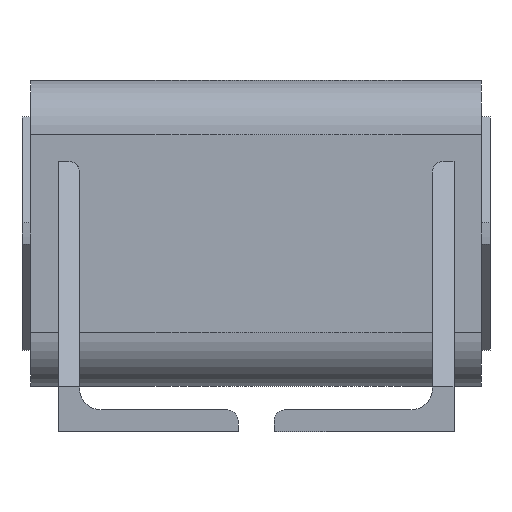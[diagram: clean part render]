
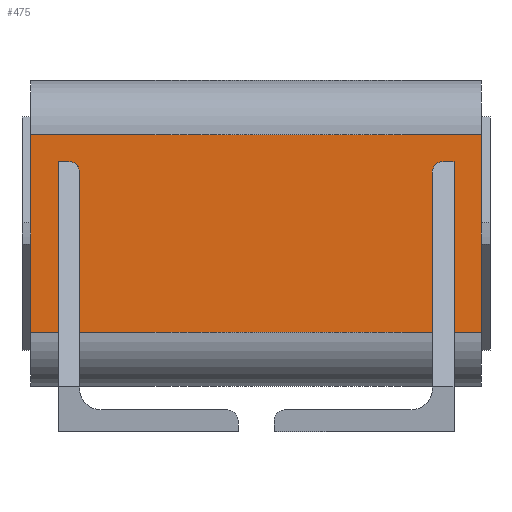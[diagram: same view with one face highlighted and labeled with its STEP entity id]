
A CAD part, left-side view. The second image highlights one B-rep face of the part: STEP entity #475.
In plain terms, the highlighted planar face has unit normal (-1, 0, 0).
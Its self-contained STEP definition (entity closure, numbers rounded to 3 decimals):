
#417=CARTESIAN_POINT('',(-85.,250.0,55.));
#418=VERTEX_POINT('',#417);
#426=CARTESIAN_POINT('',(-85.,0.0,55.));
#427=VERTEX_POINT('',#426);
#428=CARTESIAN_POINT('',(-85.,0.0,55.));
#429=DIRECTION('',(0.0,1.0,0.0));
#430=VECTOR('',#429,250.0);
#431=LINE('',#428,#430);
#432=EDGE_CURVE('',#427,#418,#431,.T.);
#445=CARTESIAN_POINT('',(-85.,0.0,55.));
#446=DIRECTION('',(-1.0,0.0,0.0));
#447=DIRECTION('',(0.0,0.0,1.0));
#448=AXIS2_PLACEMENT_3D('',#445,#446,#447);
#449=PLANE('',#448);
#450=CARTESIAN_POINT('',(-85.,250.0,-55.));
#451=VERTEX_POINT('',#450);
#452=CARTESIAN_POINT('',(-85.,250.0,55.));
#453=DIRECTION('',(0.0,0.0,-1.0));
#454=VECTOR('',#453,110.);
#455=LINE('',#452,#454);
#456=EDGE_CURVE('',#418,#451,#455,.T.);
#457=ORIENTED_EDGE('',*,*,#456,.T.);
#458=CARTESIAN_POINT('',(-85.,0.0,-55.));
#459=VERTEX_POINT('',#458);
#460=CARTESIAN_POINT('',(-85.,0.0,-55.));
#461=DIRECTION('',(0.0,1.0,0.0));
#462=VECTOR('',#461,250.0);
#463=LINE('',#460,#462);
#464=EDGE_CURVE('',#459,#451,#463,.T.);
#465=ORIENTED_EDGE('',*,*,#464,.F.);
#466=CARTESIAN_POINT('',(-85.,0.0,-55.));
#467=DIRECTION('',(0.0,0.0,1.0));
#468=VECTOR('',#467,110.);
#469=LINE('',#466,#468);
#470=EDGE_CURVE('',#459,#427,#469,.T.);
#471=ORIENTED_EDGE('',*,*,#470,.T.);
#472=ORIENTED_EDGE('',*,*,#432,.T.);
#473=EDGE_LOOP('',(#457,#465,#471,#472));
#474=FACE_OUTER_BOUND('',#473,.T.);
#475=ADVANCED_FACE('',(#474),#449,.T.);
